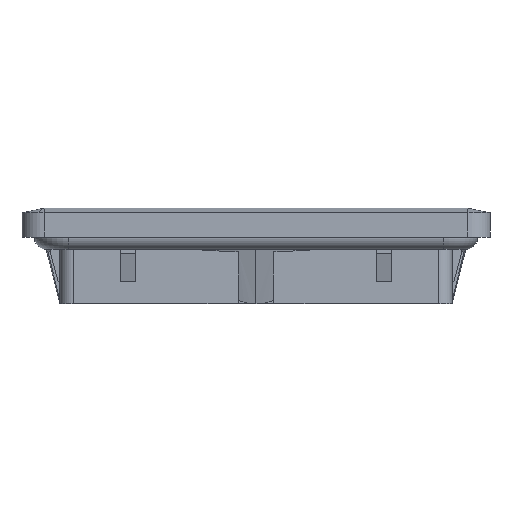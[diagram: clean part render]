
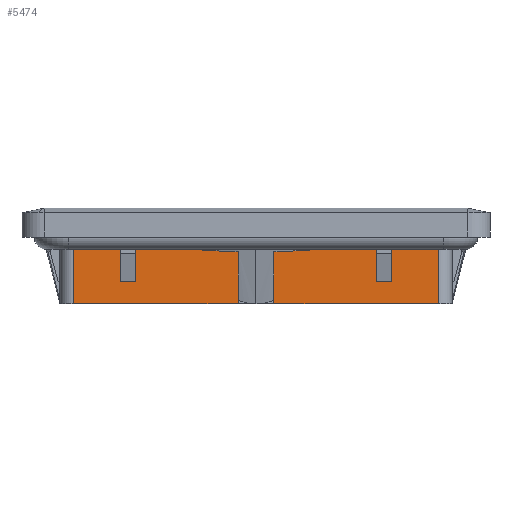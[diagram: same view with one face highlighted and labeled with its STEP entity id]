
A CAD part, front view. The second image highlights one B-rep face of the part: STEP entity #5474.
In plain terms, the highlighted planar face has unit normal (0, -1, 0).
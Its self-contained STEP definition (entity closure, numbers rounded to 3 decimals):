
#239 = ORIENTED_EDGE ( 'NONE', *, *, #2726, .F. ) ;
#240 = ORIENTED_EDGE ( 'NONE', *, *, #2649, .T. ) ;
#241 = ORIENTED_EDGE ( 'NONE', *, *, #2738, .F. ) ;
#260 = ORIENTED_EDGE ( 'NONE', *, *, #5124, .T. ) ;
#269 = ORIENTED_EDGE ( 'NONE', *, *, #2731, .F. ) ;
#397 = ORIENTED_EDGE ( 'NONE', *, *, #2648, .F. ) ;
#427 = ORIENTED_EDGE ( 'NONE', *, *, #2641, .T. ) ;
#529 = VERTEX_POINT ( 'NONE', #3645 ) ;
#540 = VERTEX_POINT ( 'NONE', #3634 ) ;
#565 = VERTEX_POINT ( 'NONE', #1306 ) ;
#611 = VERTEX_POINT ( 'NONE', #1260 ) ;
#613 = VERTEX_POINT ( 'NONE', #1258 ) ;
#684 = VERTEX_POINT ( 'NONE', #1196 ) ;
#723 = VERTEX_POINT ( 'NONE', #3625 ) ;
#791 = VERTEX_POINT ( 'NONE', #3591 ) ;
#793 = VERTEX_POINT ( 'NONE', #3590 ) ;
#866 = VERTEX_POINT ( 'NONE', #2551 ) ;
#893 = VERTEX_POINT ( 'NONE', #11920 ) ;
#898 = ORIENTED_EDGE ( 'NONE', *, *, #2692, .F. ) ;
#916 = VERTEX_POINT ( 'NONE', #11890 ) ;
#933 = ORIENTED_EDGE ( 'NONE', *, *, #2751, .F. ) ;
#952 = ORIENTED_EDGE ( 'NONE', *, *, #2715, .T. ) ;
#957 = ORIENTED_EDGE ( 'NONE', *, *, #2736, .F. ) ;
#972 = ORIENTED_EDGE ( 'NONE', *, *, #2696, .F. ) ;
#976 = ORIENTED_EDGE ( 'NONE', *, *, #2737, .T. ) ;
#977 = ORIENTED_EDGE ( 'NONE', *, *, #2742, .T. ) ;
#979 = ORIENTED_EDGE ( 'NONE', *, *, #2743, .T. ) ;
#981 = ORIENTED_EDGE ( 'NONE', *, *, #2732, .F. ) ;
#1070 = VERTEX_POINT ( 'NONE', #8344 ) ;
#1079 = VERTEX_POINT ( 'NONE', #8340 ) ;
#1108 = VERTEX_POINT ( 'NONE', #8327 ) ;
#1171 = VERTEX_POINT ( 'NONE', #8293 ) ;
#1196 = CARTESIAN_POINT ( 'NONE',  ( 30.4, -44., -10. ) ) ;
#1258 = CARTESIAN_POINT ( 'NONE',  ( -41., -44., 0. ) ) ;
#1260 = CARTESIAN_POINT ( 'NONE',  ( -30.4, -44., 0. ) ) ;
#1306 = CARTESIAN_POINT ( 'NONE',  ( -41., -44., -15. ) ) ;
#1396 = VECTOR ( 'NONE', #3891, 1000. ) ;
#1398 = VECTOR ( 'NONE', #3889, 1000. ) ;
#1399 = LINE ( 'NONE', #3890, #1396 ) ;
#1406 = LINE ( 'NONE', #3932, #1398 ) ;
#1411 = VECTOR ( 'NONE', #4012, 1000. ) ;
#1417 = LINE ( 'NONE', #4003, #1411 ) ;
#2551 = CARTESIAN_POINT ( 'NONE',  ( 27., -44., -10. ) ) ;
#2641 = EDGE_CURVE ( 'NONE', #1108, #611, #1417, .T. ) ;
#2648 = EDGE_CURVE ( 'NONE', #684, #793, #1406, .T. ) ;
#2649 = EDGE_CURVE ( 'NONE', #866, #1171, #1399, .T. ) ;
#2692 = EDGE_CURVE ( 'NONE', #1070, #565, #3540, .T. ) ;
#2696 = EDGE_CURVE ( 'NONE', #791, #723, #3484, .T. ) ;
#2715 = EDGE_CURVE ( 'NONE', #611, #613, #3525, .T. ) ;
#2726 = EDGE_CURVE ( 'NONE', #916, #1079, #3286, .T. ) ;
#2731 = EDGE_CURVE ( 'NONE', #1108, #916, #3288, .T. ) ;
#2732 = EDGE_CURVE ( 'NONE', #529, #540, #3271, .T. ) ;
#2736 = EDGE_CURVE ( 'NONE', #723, #1070, #3263, .T. ) ;
#2737 = EDGE_CURVE ( 'NONE', #791, #540, #3273, .T. ) ;
#2738 = EDGE_CURVE ( 'NONE', #866, #684, #3270, .T. ) ;
#2742 = EDGE_CURVE ( 'NONE', #893, #793, #3293, .T. ) ;
#2743 = EDGE_CURVE ( 'NONE', #529, #893, #3489, .T. ) ;
#2751 = EDGE_CURVE ( 'NONE', #565, #613, #3452, .T. ) ;
#3258 = VECTOR ( 'NONE', #4508, 1000. ) ;
#3259 = VECTOR ( 'NONE', #4498, 1000. ) ;
#3263 = LINE ( 'NONE', #4488, #3276 ) ;
#3270 = LINE ( 'NONE', #4509, #3488 ) ;
#3271 = LINE ( 'NONE', #4497, #3259 ) ;
#3273 = LINE ( 'NONE', #4493, #3258 ) ;
#3274 = VECTOR ( 'NONE', #4496, 1000. ) ;
#3276 = VECTOR ( 'NONE', #4506, 1000. ) ;
#3280 = VECTOR ( 'NONE', #4476, 1000. ) ;
#3286 = LINE ( 'NONE', #4480, #3280 ) ;
#3288 = LINE ( 'NONE', #4495, #3274 ) ;
#3293 = LINE ( 'NONE', #4517, #3507 ) ;
#3376 = VECTOR ( 'NONE', #4533, 1000. ) ;
#3452 = LINE ( 'NONE', #4535, #3376 ) ;
#3460 = VECTOR ( 'NONE', #4520, 1000. ) ;
#3478 = VECTOR ( 'NONE', #4399, 1000. ) ;
#3484 = LINE ( 'NONE', #4400, #3486 ) ;
#3486 = VECTOR ( 'NONE', #4391, 1000. ) ;
#3488 = VECTOR ( 'NONE', #4510, 1000. ) ;
#3489 = LINE ( 'NONE', #4519, #3460 ) ;
#3507 = VECTOR ( 'NONE', #4518, 1000. ) ;
#3525 = LINE ( 'NONE', #4454, #3529 ) ;
#3529 = VECTOR ( 'NONE', #4455, 1000. ) ;
#3540 = LINE ( 'NONE', #4401, #3478 ) ;
#3590 = CARTESIAN_POINT ( 'NONE',  ( 30.4, -44., 0. ) ) ;
#3591 = CARTESIAN_POINT ( 'NONE',  ( 4., -44., -11.8 ) ) ;
#3625 = CARTESIAN_POINT ( 'NONE',  ( -4., -44., -11.8 ) ) ;
#3634 = CARTESIAN_POINT ( 'NONE',  ( 4., -44., -15. ) ) ;
#3645 = CARTESIAN_POINT ( 'NONE',  ( 41., -44., -15. ) ) ;
#3889 = DIRECTION ( 'NONE',  ( 0., 0., 1. ) ) ;
#3890 = CARTESIAN_POINT ( 'NONE',  ( 27., -44., -10. ) ) ;
#3891 = DIRECTION ( 'NONE',  ( 0., 0., 1. ) ) ;
#3932 = CARTESIAN_POINT ( 'NONE',  ( 30.4, -44., -10. ) ) ;
#4003 = CARTESIAN_POINT ( 'NONE',  ( -30.4, -44., -10. ) ) ;
#4012 = DIRECTION ( 'NONE',  ( 0., 0., 1. ) ) ;
#4391 = DIRECTION ( 'NONE',  ( -1., 0., 0. ) ) ;
#4399 = DIRECTION ( 'NONE',  ( -1., 0., 0. ) ) ;
#4400 = CARTESIAN_POINT ( 'NONE',  ( -4., -44., -11.8 ) ) ;
#4401 = CARTESIAN_POINT ( 'NONE',  ( -41., -44., -15. ) ) ;
#4454 = CARTESIAN_POINT ( 'NONE',  ( 0., -44., 0. ) ) ;
#4455 = DIRECTION ( 'NONE',  ( -1., 0., 0. ) ) ;
#4476 = DIRECTION ( 'NONE',  ( 0., 0., 1. ) ) ;
#4480 = CARTESIAN_POINT ( 'NONE',  ( -27., -44., -10. ) ) ;
#4488 = CARTESIAN_POINT ( 'NONE',  ( -4., -44., -11.8 ) ) ;
#4493 = CARTESIAN_POINT ( 'NONE',  ( 4., -44., -11.8 ) ) ;
#4495 = CARTESIAN_POINT ( 'NONE',  ( -27., -44., -10. ) ) ;
#4496 = DIRECTION ( 'NONE',  ( 1., 0., 0. ) ) ;
#4497 = CARTESIAN_POINT ( 'NONE',  ( -41., -44., -15. ) ) ;
#4498 = DIRECTION ( 'NONE',  ( -1., 0., 0. ) ) ;
#4506 = DIRECTION ( 'NONE',  ( 0., 0., -1. ) ) ;
#4508 = DIRECTION ( 'NONE',  ( 0., 0., -1. ) ) ;
#4509 = CARTESIAN_POINT ( 'NONE',  ( 27., -44., -10. ) ) ;
#4510 = DIRECTION ( 'NONE',  ( 1., 0., 0. ) ) ;
#4517 = CARTESIAN_POINT ( 'NONE',  ( 0., -44., 0. ) ) ;
#4518 = DIRECTION ( 'NONE',  ( -1., 0., 0. ) ) ;
#4519 = CARTESIAN_POINT ( 'NONE',  ( 41., -44., -12. ) ) ;
#4520 = DIRECTION ( 'NONE',  ( 0., 0., 1. ) ) ;
#4533 = DIRECTION ( 'NONE',  ( 0., 0., 1. ) ) ;
#4535 = CARTESIAN_POINT ( 'NONE',  ( -41., -44., -12. ) ) ;
#5124 = EDGE_CURVE ( 'NONE', #1171, #1079, #14682, .T. ) ;
#5474 = ADVANCED_FACE ( 'NONE', ( #11955 ), #12916, .F. ) ;
#7233 = EDGE_LOOP ( 'NONE', ( #972, #976, #981, #979, #977, #397, #241, #240, #260, #239, #269, #427, #952, #933, #898, #957 ) ) ;
#8293 = CARTESIAN_POINT ( 'NONE',  ( 27., -44., 0. ) ) ;
#8327 = CARTESIAN_POINT ( 'NONE',  ( -30.4, -44., -10. ) ) ;
#8340 = CARTESIAN_POINT ( 'NONE',  ( -27., -44., 0. ) ) ;
#8344 = CARTESIAN_POINT ( 'NONE',  ( -4., -44., -15. ) ) ;
#8938 = AXIS2_PLACEMENT_3D ( 'NONE', #12914, #12918, #12919 ) ;
#9425 = DIRECTION ( 'NONE',  ( -1., 0., 0. ) ) ;
#9435 = CARTESIAN_POINT ( 'NONE',  ( 0., -44., 0. ) ) ;
#11890 = CARTESIAN_POINT ( 'NONE',  ( -27., -44., -10. ) ) ;
#11920 = CARTESIAN_POINT ( 'NONE',  ( 41., -44., 0. ) ) ;
#11955 = FACE_OUTER_BOUND ( 'NONE', #7233, .T. ) ;
#12914 = CARTESIAN_POINT ( 'NONE',  ( -41., -44., -12. ) ) ;
#12916 = PLANE ( 'NONE',  #8938 ) ;
#12918 = DIRECTION ( 'NONE',  ( 0., 1., 0. ) ) ;
#12919 = DIRECTION ( 'NONE',  ( -1., 0., 0. ) ) ;
#14681 = VECTOR ( 'NONE', #9425, 1000. ) ;
#14682 = LINE ( 'NONE', #9435, #14681 ) ;
